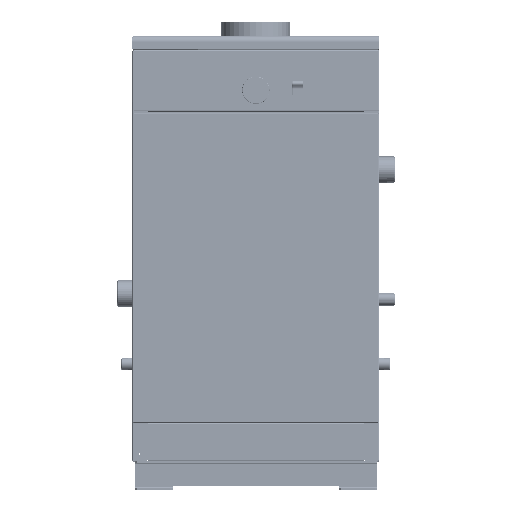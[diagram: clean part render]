
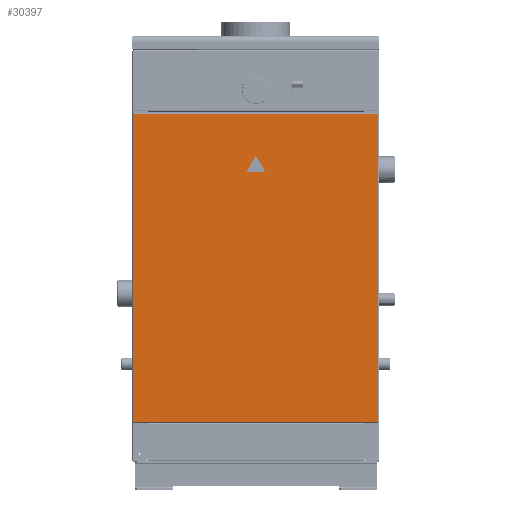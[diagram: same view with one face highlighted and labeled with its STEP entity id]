
A CAD part, top view. The second image highlights one B-rep face of the part: STEP entity #30397.
In plain terms, the highlighted planar face has unit normal (0, 0, 1) as drawn and (0, 0, -1) by its records, which use the part's own axes.
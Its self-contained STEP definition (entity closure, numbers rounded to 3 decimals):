
#30397=ADVANCED_FACE('',(#76645),#76647,.F.);
#76645=FACE_BOUND('',#76646,.T.);
#76646=EDGE_LOOP('',(#104684,#104685,#104686,#104687,#104688,#104689,#104690,#104691));
#76647=PLANE('',#76648);
#76648=AXIS2_PLACEMENT_3D('',#76649,#76650,#76651);
#76649=CARTESIAN_POINT('',(0.,0.,0.));
#76650=DIRECTION('',(0.,0.,1.));
#76651=DIRECTION('',(1.,0.,0.));
#104684=ORIENTED_EDGE('',*,*,#117873,.F.);
#104685=ORIENTED_EDGE('',*,*,#117851,.T.);
#104686=ORIENTED_EDGE('',*,*,#117874,.F.);
#104687=ORIENTED_EDGE('',*,*,#117856,.T.);
#104688=ORIENTED_EDGE('',*,*,#117875,.F.);
#104689=ORIENTED_EDGE('',*,*,#117863,.T.);
#104690=ORIENTED_EDGE('',*,*,#117876,.F.);
#104691=ORIENTED_EDGE('',*,*,#117868,.T.);
#117851=EDGE_CURVE('',#138428,#138430,#138432,.T.);
#117856=EDGE_CURVE('',#138440,#138438,#138441,.T.);
#117863=EDGE_CURVE('',#138448,#138450,#138452,.T.);
#117868=EDGE_CURVE('',#138460,#138458,#138461,.T.);
#117873=EDGE_CURVE('',#138428,#138458,#138468,.T.);
#117874=EDGE_CURVE('',#138440,#138430,#138469,.T.);
#117875=EDGE_CURVE('',#138448,#138438,#138470,.T.);
#117876=EDGE_CURVE('',#138460,#138450,#138471,.T.);
#138428=VERTEX_POINT('',#233688);
#138430=VERTEX_POINT('',#233692);
#138432=CIRCLE('',#233696,1.5);
#138438=VERTEX_POINT('',#233743);
#138440=VERTEX_POINT('',#233747);
#138441=CIRCLE('',#233748,1.5);
#138448=VERTEX_POINT('',#233798);
#138450=VERTEX_POINT('',#233802);
#138452=CIRCLE('',#233806,1.5);
#138458=VERTEX_POINT('',#233853);
#138460=VERTEX_POINT('',#233857);
#138461=CIRCLE('',#233858,1.5);
#138468=LINE('',#233908,#233909);
#138469=LINE('',#233911,#233912);
#138470=LINE('',#233914,#233915);
#138471=LINE('',#233917,#233918);
#233688=CARTESIAN_POINT('',(-257.882,69.9,0.));
#233692=CARTESIAN_POINT('',(-258.,70.018,0.));
#233696=AXIS2_PLACEMENT_3D('',#233697,#233698,#233699);
#233697=CARTESIAN_POINT('',(-259.,68.9,0.));
#233698=DIRECTION('',(0.,0.,1.));
#233699=DIRECTION('',(0.745,0.667,0.));
#233743=CARTESIAN_POINT('',(-257.882,719.4,0.));
#233747=CARTESIAN_POINT('',(-258.,719.282,0.));
#233748=AXIS2_PLACEMENT_3D('',#233749,#233750,#233751);
#233749=CARTESIAN_POINT('',(-259.,720.4,0.));
#233750=DIRECTION('',(0.,0.,1.));
#233751=DIRECTION('',(0.667,-0.745,0.));
#233798=CARTESIAN_POINT('',(257.882,719.4,0.));
#233802=CARTESIAN_POINT('',(258.,719.282,0.));
#233806=AXIS2_PLACEMENT_3D('',#233807,#233808,#233809);
#233807=CARTESIAN_POINT('',(259.,720.4,0.));
#233808=DIRECTION('',(0.,0.,1.));
#233809=DIRECTION('',(-0.745,-0.667,0.));
#233853=CARTESIAN_POINT('',(257.882,69.9,0.));
#233857=CARTESIAN_POINT('',(258.,70.018,0.));
#233858=AXIS2_PLACEMENT_3D('',#233859,#233860,#233861);
#233859=CARTESIAN_POINT('',(259.,68.9,0.));
#233860=DIRECTION('',(0.,0.,1.));
#233861=DIRECTION('',(-0.667,0.745,0.));
#233908=CARTESIAN_POINT('',(-257.882,69.9,0.));
#233909=VECTOR('',#233910,1.);
#233910=DIRECTION('',(1.,0.,0.));
#233911=CARTESIAN_POINT('',(-258.,719.282,0.));
#233912=VECTOR('',#233913,1.);
#233913=DIRECTION('',(0.,-1.,0.));
#233914=CARTESIAN_POINT('',(257.882,719.4,0.));
#233915=VECTOR('',#233916,1.);
#233916=DIRECTION('',(-1.,0.,0.));
#233917=CARTESIAN_POINT('',(258.,70.018,0.));
#233918=VECTOR('',#233919,1.);
#233919=DIRECTION('',(0.,1.,0.));
